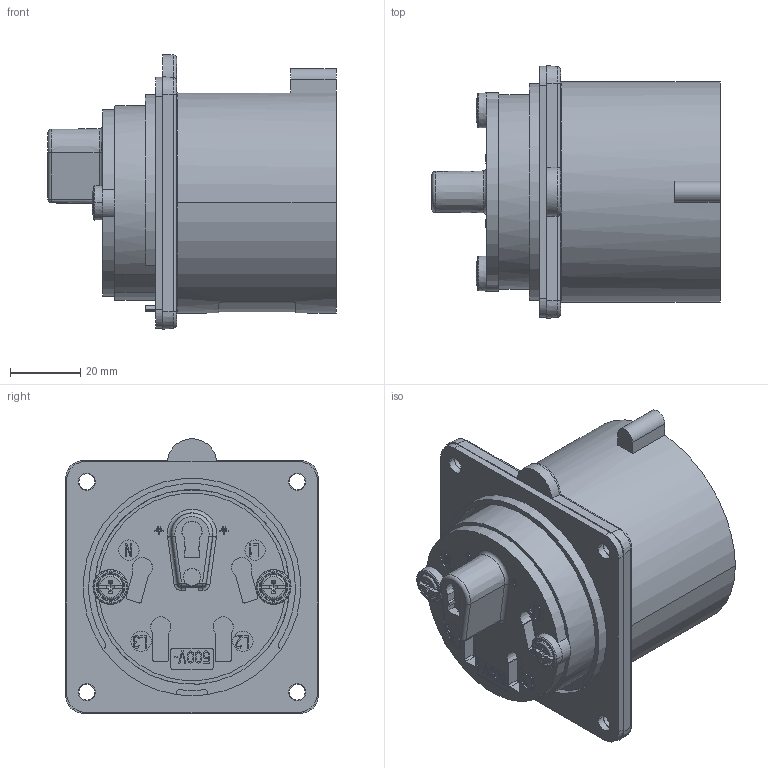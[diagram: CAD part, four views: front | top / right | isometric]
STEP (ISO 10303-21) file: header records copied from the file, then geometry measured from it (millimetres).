
FILE_DESCRIPTION((''),'2;1');
FILE_NAME('1409_SW0001','2018-03-21T',('gisse'),('MENNEKES'),'PRO/ENGINEER BY PARAMETRIC TECHNOLOGY CORPORATION, 2015440','PRO/ENGINEER BY PARAMETRIC TECHNOLOGY CORPORATION, 2015440','');
FILE_SCHEMA(('AUTOMOTIVE_DESIGN { 1 0 10303 214 1 1 1 1 }'));
Length unit declared in the file: millimetre
Products named in the file (1): 1409_SW0001
Bounding box: 82.2 x 72 x 78.25 mm (x, y, z)
Volume: 105007.9 mm3; surface area: 41185.9 mm2
Topology: 1 solids, 1 shells, 659 faces, 1744 edges, 1142 vertices
Faces by surface type: plane 448, cylinder 110, torus 49, cone 40, bspline 10, sphere 2
Entity records: 33825 total; most frequent: CARTESIAN_POINT 4338, ORIENTED_EDGE 3480, DIRECTION 3303, PRESENTATION_STYLE_ASSIGNMENT 2362, STYLED_ITEM 1741, CURVE_STYLE 1740, EDGE_CURVE 1740, FILL_AREA_STYLE_COLOUR 1243
